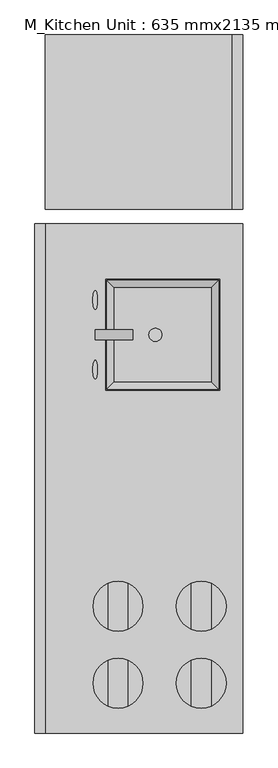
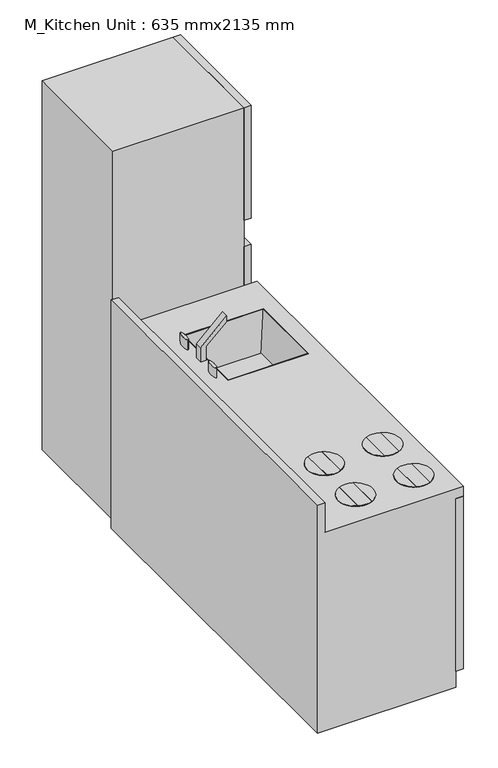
"""IFC4 building model written with IfcOpenShell, lengths in millimetres: flow terminal geometry, M_Kitchen Unit : 635 mmx2135 mm."""

from ifc_helpers import new_model, si_unit, point, frame, frame_2d, origin, origin_with_axes, place, context, project, spatial, polyline, circle_curve, ellipse_curve, trimmed, segment, composite_curve, outline, extrude, faceted_brep, source, transform, mapped, element, save
from ifc_brep_helpers import plane_surface, revolved_surface, extruded_surface, advanced_brep


def m_kitchen_unit_635_mmx2135_mm_826748c3(model_context):
    return source(origin(), model_context, "Body", "SolidModel", [
        extrude(outline(composite_curve([segment(trimmed(circle_curve(frame_2d((368.3, 438.5)), 20.0), [point((388.3, 438.5))], [point((348.3, 438.5))], False, "CARTESIAN"), True, "CONTINUOUS"), segment(trimmed(circle_curve(frame_2d((368.3, 438.5)), 20.0), [point((348.3, 438.5))], [point((388.3, 438.5))], False, "CARTESIAN"), True, "CONTINUOUS")], self_intersect=False)), frame((0.0, 0.0, 731.8375), z_axis=(0.0, 0.0, 1.0), x_axis=(1.0, 0.0, 0.0)), (0.0, 0.0, 1.0), 3.175),
        extrude(outline(polyline([(635.0, -329.2375), (635.0, -735.6375), (603.25, -735.6375), (603.25, -329.2375), (635.0, -329.2375)])), frame((0.0, 0.0, 365.91875), z_axis=(0.0, 0.0, 1.0), x_axis=(1.0, 0.0, 0.0)), (0.0, 0.0, 1.0), 411.1625),
        extrude(outline(polyline([(-778.5, 73.025), (-778.5, 868.3625), (-286.375, 868.3625), (-286.375, 73.025), (-778.5, 73.025)]), holes=[polyline([(-329.2375, 777.08125), (-735.6375, 777.08125), (-735.6375, 365.91875), (-329.2375, 365.91875), (-329.2375, 777.08125)])]), frame((603.25, 0.0, 0.0), z_axis=(1.0, 0.0, 0.0), x_axis=(0.0, 1.0, 0.0)), (0.0, 0.0, 1.0), 31.75),
        extrude(outline(polyline([(603.25, 778.5), (635.0, 778.5), (635.0, -276.85), (603.25, -276.85), (603.25, 778.5)])), frame((0.0, 0.0, 73.025), z_axis=(0.0, 0.0, 1.0), x_axis=(1.0, 0.0, 0.0)), (0.0, 0.0, 1.0), 795.3375),
        faceted_brep([(0.0, -778.5, 1050.0), (0.0, -778.5, 0.0), (603.25, -778.5, 0.0), (603.25, -778.5, 868.3625), (635.0, -778.5, 868.3625), (635.0, -778.5, 914.4), (31.75, -778.5, 914.4), (31.75, -778.5, 1050.0), (0.0, 778.5, 1050.0), (31.75, 778.5, 1050.0), (31.75, 778.5, 914.4), (635.0, 778.5, 914.4), (635.0, 778.5, 868.3625), (603.25, 778.5, 868.3625), (603.25, 778.5, 0.0), (0.0, 778.5, 0.0), (215.9, 608.5, 914.4), (565.15, 608.5, 914.4), (565.15, 268.5, 914.4), (215.9, 268.5, 914.4), (542.925, 586.275, 731.8375), (238.125, 586.275, 731.8375), (238.125, 290.725, 731.8375), (542.925, 290.725, 731.8375)], [[[0, 1, 2, 3, 4, 5, 6, 7]], [[8, 9, 10, 11, 12, 13, 14, 15]], [[1, 0, 8, 15]], [[2, 1, 15, 14]], [[2, 14, 13, 3]], [[11, 5, 4, 12]], [[6, 5, 11, 10], [16, 17, 18, 19]], [[7, 6, 10, 9]], [[0, 7, 9, 8]], [[3, 13, 12, 4]], [[20, 21, 22, 23]], [[21, 20, 17, 16]], [[22, 21, 16, 19]], [[23, 22, 19, 18]], [[20, 23, 18, 17]]]),
        extrude(outline(polyline([(635.0, 1354.7625), (635.0, 821.3625), (603.25, 821.3625), (603.25, 1354.7625), (635.0, 1354.7625)])), frame((0.0, 0.0, 114.3), z_axis=(0.0, 0.0, 1.0), x_axis=(1.0, 0.0, 0.0)), (0.0, 0.0, 1.0), 942.975),
        extrude(outline(polyline([(635.0, 1354.7625), (635.0, 821.3625), (603.25, 821.3625), (603.25, 1354.7625), (635.0, 1354.7625)])), frame((0.0, 0.0, 1178.71875), z_axis=(0.0, 0.0, 1.0), x_axis=(1.0, 0.0, 0.0)), (0.0, 0.0, 1.0), 519.90625),
        extrude(outline(polyline([(603.25, 821.3625), (31.75, 821.3625), (31.75, 1354.7625), (603.25, 1354.7625), (603.25, 821.3625)])), origin_with_axes(), (0.0, 0.0, 1.0), 1698.625),
        extrude(outline(composite_curve([segment(polyline([(477.8375, -696.0761645), (477.8375, -556.1238355)]), True, "CONTINUOUS"), segment(trimmed(circle_curve(frame_2d((508.0, -626.1)), 76.2), [point((477.8375, -556.1238355))], [point((538.1625, -556.1238355))], False, "CARTESIAN"), True, "CONTINUOUS"), segment(polyline([(538.1625, -556.1238355), (538.1625, -696.0761645)]), True, "CONTINUOUS"), segment(trimmed(circle_curve(frame_2d((508.0, -626.1)), 76.2), [point((538.1625, -696.0761645))], [point((477.8375, -696.0761645))], False, "CARTESIAN"), True, "CONTINUOUS")], self_intersect=False)), frame((0.0, 0.0, 914.4), z_axis=(0.0, 0.0, 1.0), x_axis=(1.0, 0.0, 0.0)), (0.0, 0.0, 1.0), 3.175),
        extrude(outline(composite_curve([segment(trimmed(circle_curve(frame_2d((508.0, -626.1)), 76.2), [point((477.8375, -696.0761645))], [point((477.8375, -556.1238355))], False, "CARTESIAN"), True, "CONTINUOUS"), segment(polyline([(477.8375, -556.1238355), (477.8375, -696.0761645)]), True, "CONTINUOUS")], self_intersect=False)), frame((0.0, 0.0, 914.4), z_axis=(0.0, 0.0, 1.0), x_axis=(1.0, 0.0, 0.0)), (0.0, 0.0, 1.0), 3.175),
        extrude(outline(composite_curve([segment(polyline([(538.1625, -696.0761645), (538.1625, -556.1238355)]), True, "CONTINUOUS"), segment(trimmed(circle_curve(frame_2d((508.0, -626.1)), 76.2), [point((538.1625, -556.1238355))], [point((538.1625, -696.0761645))], False, "CARTESIAN"), True, "CONTINUOUS")], self_intersect=False)), frame((0.0, 0.0, 914.4), z_axis=(0.0, 0.0, 1.0), x_axis=(1.0, 0.0, 0.0)), (0.0, 0.0, 1.0), 3.175),
        extrude(outline(composite_curve([segment(trimmed(circle_curve(frame_2d((254.0, -391.15)), 76.2), [point((284.1625, -461.1261645))], [point((223.8375, -461.1261645))], False, "CARTESIAN"), True, "CONTINUOUS"), segment(polyline([(223.8375, -461.1261645), (223.8375, -321.1738355)]), True, "CONTINUOUS"), segment(trimmed(circle_curve(frame_2d((254.0, -391.15)), 76.2), [point((223.8375, -321.1738355))], [point((284.1625, -321.1738355))], False, "CARTESIAN"), True, "CONTINUOUS"), segment(polyline([(284.1625, -321.1738355), (284.1625, -461.1261645)]), True, "CONTINUOUS")], self_intersect=False)), frame((0.0, 0.0, 914.4), z_axis=(0.0, 0.0, 1.0), x_axis=(1.0, 0.0, 0.0)), (0.0, 0.0, 1.0), 3.175),
        extrude(outline(composite_curve([segment(trimmed(circle_curve(frame_2d((508.0, -391.15)), 76.2), [point((538.1625, -461.1261645))], [point((477.8375, -461.1261645))], False, "CARTESIAN"), True, "CONTINUOUS"), segment(polyline([(477.8375, -461.1261645), (477.8375, -321.1738355)]), True, "CONTINUOUS"), segment(trimmed(circle_curve(frame_2d((508.0, -391.15)), 76.2), [point((477.8375, -321.1738355))], [point((538.1625, -321.1738355))], False, "CARTESIAN"), True, "CONTINUOUS"), segment(polyline([(538.1625, -321.1738355), (538.1625, -461.1261645)]), True, "CONTINUOUS")], self_intersect=False)), frame((0.0, 0.0, 914.4), z_axis=(0.0, 0.0, 1.0), x_axis=(1.0, 0.0, 0.0)), (0.0, 0.0, 1.0), 3.175),
        extrude(outline(composite_curve([segment(trimmed(circle_curve(frame_2d((254.0, -391.15)), 76.2), [point((223.8375, -461.1261645))], [point((223.8375, -321.1738355))], False, "CARTESIAN"), True, "CONTINUOUS"), segment(polyline([(223.8375, -321.1738355), (223.8375, -461.1261645)]), True, "CONTINUOUS")], self_intersect=False)), frame((0.0, 0.0, 914.4), z_axis=(0.0, 0.0, 1.0), x_axis=(1.0, 0.0, 0.0)), (0.0, 0.0, 1.0), 3.175),
        extrude(outline(composite_curve([segment(trimmed(circle_curve(frame_2d((508.0, -391.15)), 76.2), [point((477.8375, -461.1261645))], [point((477.8375, -321.1738355))], False, "CARTESIAN"), True, "CONTINUOUS"), segment(polyline([(477.8375, -321.1738355), (477.8375, -461.1261645)]), True, "CONTINUOUS")], self_intersect=False)), frame((0.0, 0.0, 914.4), z_axis=(0.0, 0.0, 1.0), x_axis=(1.0, 0.0, 0.0)), (0.0, 0.0, 1.0), 3.175),
        extrude(outline(composite_curve([segment(trimmed(circle_curve(frame_2d((254.0, -391.15)), 76.2), [point((284.1625, -321.1738355))], [point((284.1625, -461.1261645))], False, "CARTESIAN"), True, "CONTINUOUS"), segment(polyline([(284.1625, -461.1261645), (284.1625, -321.1738355)]), True, "CONTINUOUS")], self_intersect=False)), frame((0.0, 0.0, 914.4), z_axis=(0.0, 0.0, 1.0), x_axis=(1.0, 0.0, 0.0)), (0.0, 0.0, 1.0), 3.175),
        extrude(outline(composite_curve([segment(trimmed(circle_curve(frame_2d((508.0, -391.15)), 76.2), [point((538.1625, -321.1738355))], [point((538.1625, -461.1261645))], False, "CARTESIAN"), True, "CONTINUOUS"), segment(polyline([(538.1625, -461.1261645), (538.1625, -321.1738355)]), True, "CONTINUOUS")], self_intersect=False)), frame((0.0, 0.0, 914.4), z_axis=(0.0, 0.0, 1.0), x_axis=(1.0, 0.0, 0.0)), (0.0, 0.0, 1.0), 3.175),
        extrude(outline(composite_curve([segment(polyline([(223.8375, -696.0761645), (223.8375, -556.1238355)]), True, "CONTINUOUS"), segment(trimmed(circle_curve(frame_2d((254.0, -626.1)), 76.2), [point((223.8375, -556.1238355))], [point((284.1625, -556.1238355))], False, "CARTESIAN"), True, "CONTINUOUS"), segment(polyline([(284.1625, -556.1238355), (284.1625, -696.0761645)]), True, "CONTINUOUS"), segment(trimmed(circle_curve(frame_2d((254.0, -626.1)), 76.2), [point((284.1625, -696.0761645))], [point((223.8375, -696.0761645))], False, "CARTESIAN"), True, "CONTINUOUS")], self_intersect=False)), frame((0.0, 0.0, 914.4), z_axis=(0.0, 0.0, 1.0), x_axis=(1.0, 0.0, 0.0)), (0.0, 0.0, 1.0), 3.175),
        extrude(outline(composite_curve([segment(trimmed(circle_curve(frame_2d((254.0, -626.1)), 76.2), [point((223.8375, -696.0761645))], [point((223.8375, -556.1238355))], False, "CARTESIAN"), True, "CONTINUOUS"), segment(polyline([(223.8375, -556.1238355), (223.8375, -696.0761645)]), True, "CONTINUOUS")], self_intersect=False)), frame((0.0, 0.0, 914.4), z_axis=(0.0, 0.0, 1.0), x_axis=(1.0, 0.0, 0.0)), (0.0, 0.0, 1.0), 3.175),
        extrude(outline(composite_curve([segment(trimmed(circle_curve(frame_2d((254.0, -626.1)), 76.2), [point((284.1625, -556.1238355))], [point((284.1625, -696.0761645))], False, "CARTESIAN"), True, "CONTINUOUS"), segment(polyline([(284.1625, -696.0761645), (284.1625, -556.1238355)]), True, "CONTINUOUS")], self_intersect=False)), frame((0.0, 0.0, 914.4), z_axis=(0.0, 0.0, 1.0), x_axis=(1.0, 0.0, 0.0)), (0.0, 0.0, 1.0), 3.175),
        advanced_brep(
        [(184.15, 360.7125, 960.4375), (184.15, 303.5625, 960.4375), (184.15, 360.7125, 914.4), (184.15, 303.5625, 914.4)],
        [
            (0, 1, ellipse_curve(frame((184.15, 332.1375, 960.4375), z_axis=(0.0, 0.0, 1.0), x_axis=(0.0, -1.0, 0.0)), 28.575, 7.14375)),
            (1, 0, ellipse_curve(frame((184.15, 332.1375, 960.4375), z_axis=(0.0, 0.0, 1.0), x_axis=(0.0, -1.0, 0.0)), 28.575, 7.14375)),
            (2, 3, ellipse_curve(frame((184.15, 332.1375, 914.4), z_axis=(0.0, 0.0, -1.0), x_axis=(0.0, -1.0, 0.0)), 28.575, 7.14375)),
            (3, 2, ellipse_curve(frame((184.15, 332.1375, 914.4), z_axis=(0.0, 0.0, -1.0), x_axis=(0.0, -1.0, 0.0)), 28.575, 7.14375)),
            (0, 2),
            (3, 1),
        ],
        [
            plane_surface(frame((184.15, 303.5625, 960.4375), z_axis=(0.0, 0.0, 1.0), x_axis=(1.0, 0.0, 0.0))),
            plane_surface(frame((184.15, 303.5625, 914.4), z_axis=(0.0, 0.0, -1.0), x_axis=(-1.0, 0.0, 0.0))),
            extruded_surface(trimmed(ellipse_curve(frame((184.15, 332.1375, 868.3625), z_axis=(0.0, 0.0, 1.0), x_axis=(0.0, -1.0, 0.0)), 28.575, 7.14375), [point((184.15, 360.7125, 868.3625))], [point((184.15, 303.5625, 868.3625))], True, "CARTESIAN"), (0.0, 0.0, 46.03750000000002), 46.03750000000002),
            extruded_surface(trimmed(ellipse_curve(frame((184.15, 332.1375, 868.3625), z_axis=(0.0, 0.0, 1.0), x_axis=(0.0, -1.0, 0.0)), 28.575, 7.14375), [point((184.15, 303.5625, 868.3625))], [point((184.15, 360.7125, 868.3625))], True, "CARTESIAN"), (0.0, 0.0, 46.03750000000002), 46.03750000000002),
        ],
        [
            (0, [[1, 2]]),
            (1, [[3, 4]]),
            (2, [[-1, 5, -4, 6]]),
            (3, [[-2, -6, -3, -5]]),
        ],
    ),
        advanced_brep(
        [(184.15, 573.4375, 960.4375), (184.15, 516.2875, 960.4375), (184.15, 573.4375, 914.4), (184.15, 516.2875, 914.4)],
        [
            (0, 1, ellipse_curve(frame((184.15, 544.8625, 960.4375), z_axis=(0.0, 0.0, 1.0), x_axis=(0.0, -1.0, 0.0)), 28.575, 7.14375)),
            (1, 0, ellipse_curve(frame((184.15, 544.8625, 960.4375), z_axis=(0.0, 0.0, 1.0), x_axis=(0.0, -1.0, 0.0)), 28.575, 7.14375)),
            (2, 3, ellipse_curve(frame((184.15, 544.8625, 914.4), z_axis=(0.0, 0.0, -1.0), x_axis=(0.0, -1.0, 0.0)), 28.575, 7.14375)),
            (3, 2, ellipse_curve(frame((184.15, 544.8625, 914.4), z_axis=(0.0, 0.0, -1.0), x_axis=(0.0, -1.0, 0.0)), 28.575, 7.14375)),
            (0, 2),
            (3, 1),
        ],
        [
            plane_surface(frame((184.15, 516.2875, 960.4375), z_axis=(0.0, 0.0, 1.0), x_axis=(1.0, 0.0, 0.0))),
            plane_surface(frame((184.15, 516.2875, 914.4), z_axis=(0.0, 0.0, -1.0), x_axis=(-1.0, 0.0, 0.0))),
            extruded_surface(trimmed(ellipse_curve(frame((184.15, 544.8625, 868.3625), z_axis=(0.0, 0.0, 1.0), x_axis=(0.0, -1.0, 0.0)), 28.575, 7.14375), [point((184.15, 573.4375, 868.3625))], [point((184.15, 516.2875, 868.3625))], True, "CARTESIAN"), (0.0, 0.0, 46.03750000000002), 46.03750000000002),
            extruded_surface(trimmed(ellipse_curve(frame((184.15, 544.8625, 868.3625), z_axis=(0.0, 0.0, 1.0), x_axis=(0.0, -1.0, 0.0)), 28.575, 7.14375), [point((184.15, 516.2875, 868.3625))], [point((184.15, 573.4375, 868.3625))], True, "CARTESIAN"), (0.0, 0.0, 46.03750000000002), 46.03750000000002),
        ],
        [
            (0, [[1, 2]]),
            (1, [[3, 4]]),
            (2, [[-1, 5, -4, 6]]),
            (3, [[-2, -6, -3, -5]]),
        ],
    ),
        extrude(outline(polyline([(914.4, 209.55), (977.9, 209.55), (1060.8005912, 298.45), (1087.7880912, 298.45), (981.2016168, 184.15), (914.4, 184.15), (914.4, 209.55)])), frame((0.0, 423.41875, 0.0), z_axis=(0.0, 1.0, 0.0), x_axis=(0.0, 0.0, 1.0)), (0.0, 0.0, 1.0), 30.1625),
        advanced_brep(
        [(542.925, 586.275, 731.8375), (542.925, 290.725, 731.8375), (238.125, 290.725, 731.8375), (238.125, 586.275, 731.8375), (355.6, 438.5, 731.8375), (381.0, 438.5, 731.8375), (565.15, 608.5, 914.4), (215.9, 608.5, 914.4), (215.9, 268.5, 914.4), (565.15, 268.5, 914.4), (561.975, 605.325, 914.4), (561.975, 271.675, 914.4), (219.075, 271.675, 914.4), (219.075, 605.325, 914.4), (539.75, 583.1, 735.0125), (241.3, 583.1, 735.0125), (241.3, 293.9, 735.0125), (539.75, 293.9, 735.0125), (381.0, 438.5, 735.0125), (355.6, 438.5, 735.0125)],
        [
            (0, 1),
            (1, 2),
            (2, 3),
            (3, 0),
            (4, 5, circle_curve(frame((368.3, 438.5, 731.8375), z_axis=(0.0, 0.0, 1.0), x_axis=(1.0, 0.0, 0.0)), 12.7)),
            (5, 4, circle_curve(frame((368.3, 438.5, 731.8375), z_axis=(0.0, 0.0, 1.0), x_axis=(1.0, 0.0, 0.0)), 12.7)),
            (6, 7),
            (7, 8),
            (8, 9),
            (9, 6),
            (10, 11),
            (11, 12),
            (12, 13),
            (13, 10),
            (0, 6),
            (9, 1),
            (8, 2),
            (7, 3),
            (14, 15),
            (15, 16),
            (16, 17),
            (17, 14),
            (18, 19, circle_curve(frame((368.3, 438.5, 735.0125), z_axis=(0.0, 0.0, -1.0), x_axis=(1.0, 0.0, 0.0)), 12.7)),
            (19, 18, circle_curve(frame((368.3, 438.5, 735.0125), z_axis=(0.0, 0.0, -1.0), x_axis=(1.0, 0.0, 0.0)), 12.7)),
            (17, 11),
            (10, 14),
            (16, 12),
            (15, 13),
            (4, 19),
            (18, 5),
        ],
        [
            plane_surface(frame((390.525, 438.5, 731.8375), z_axis=(0.0, 0.0, -1.0), x_axis=(-1.0, 0.0, 0.0))),
            plane_surface(frame((390.525, 438.5, 914.4), z_axis=(0.0, 0.0, 1.0), x_axis=(-1.0, 0.0, 0.0))),
            plane_surface(frame((565.15, 438.5, 914.4), z_axis=(0.9926711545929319, 0.0, -0.12084692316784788), x_axis=(0.0, -1.0, 0.0))),
            plane_surface(frame((390.525, 268.5, 914.4), z_axis=(0.0, -0.9926711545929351, -0.1208469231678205), x_axis=(-1.0, 0.0, 0.0))),
            plane_surface(frame((215.9, 438.5, 914.4), z_axis=(-0.992671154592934, 0.0, -0.12084692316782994), x_axis=(0.0, 1.0, 0.0))),
            plane_surface(frame((390.525, 608.5, 914.4), z_axis=(0.0, 0.9926711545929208, -0.12084692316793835), x_axis=(1.0, 0.0, 0.0))),
            plane_surface(frame((390.525, 438.5, 735.0125), z_axis=(0.0, 0.0, 1.0), x_axis=(-1.0, 0.0, 0.0))),
            plane_surface(frame((561.975, 438.5, 914.4), z_axis=(-0.9924124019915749, 0.0, 0.1229537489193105), x_axis=(0.0, -1.0, 0.0))),
            plane_surface(frame((390.525, 271.675, 914.4), z_axis=(0.0, 0.992412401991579, 0.12295374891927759), x_axis=(-1.0, 0.0, 0.0))),
            plane_surface(frame((219.075, 438.5, 914.4), z_axis=(0.9924124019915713, 0.0, 0.12295374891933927), x_axis=(0.0, 1.0, 0.0))),
            plane_surface(frame((390.525, 605.325, 914.4), z_axis=(0.0, -0.9924124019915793, 0.12295374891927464), x_axis=(1.0, 0.0, 0.0))),
            revolved_surface(polyline([(381.0, 438.5, 735.0125), (381.0, 438.5, 731.8375)]), (368.3, 438.5, 731.8375), (0.0, 0.0, 1.0)),
        ],
        [
            (0, [[1, 2, 3, 4], [5, 6]]),
            (1, [[7, 8, 9, 10], [11, 12, 13, 14]]),
            (2, [[-1, 15, -10, 16]]),
            (3, [[-2, -16, -9, 17]]),
            (4, [[-3, -17, -8, 18]]),
            (5, [[-4, -18, -7, -15]]),
            (6, [[19, 20, 21, 22], [23, 24]]),
            (7, [[-22, 25, -11, 26]]),
            (8, [[-21, 27, -12, -25]]),
            (9, [[-20, 28, -13, -27]]),
            (10, [[-19, -26, -14, -28]]),
            (11, [[29, -23, 30, -5]]),
            (11, [[-29, -6, -30, -24]]),
        ],
    ),
    ])


if __name__ == "__main__":
    model = new_model("IFC4")
    model_context = context("Model", 3, world=origin())
    ifc_project = project(units=[si_unit("LENGTHUNIT", "METRE", prefix="MILLI")], contexts=[model_context])
    site = spatial("IfcSite", under=ifc_project)
    building = spatial("IfcBuilding", under=site)
    placement = place(None, origin())
    m_kitchen_unit_635_mmx2135_mm_shape = m_kitchen_unit_635_mmx2135_mm_826748c3(model_context)
    element("IfcFlowTerminal", 1, ObjectType="M_Kitchen Unit : 635 mmx2135 mm", at=placement, inside=building, context=model_context, shape_type="MappedRepresentation", body=[
        mapped(m_kitchen_unit_635_mmx2135_mm_shape, transform((0.0, 0.0, 0.0), x_axis=(1.0, 0.0, 0.0), y_axis=(0.0, 1.0, 0.0), z_axis=(0.0, 0.0, 1.0))),
    ])
    save(model, "model.ifc")
